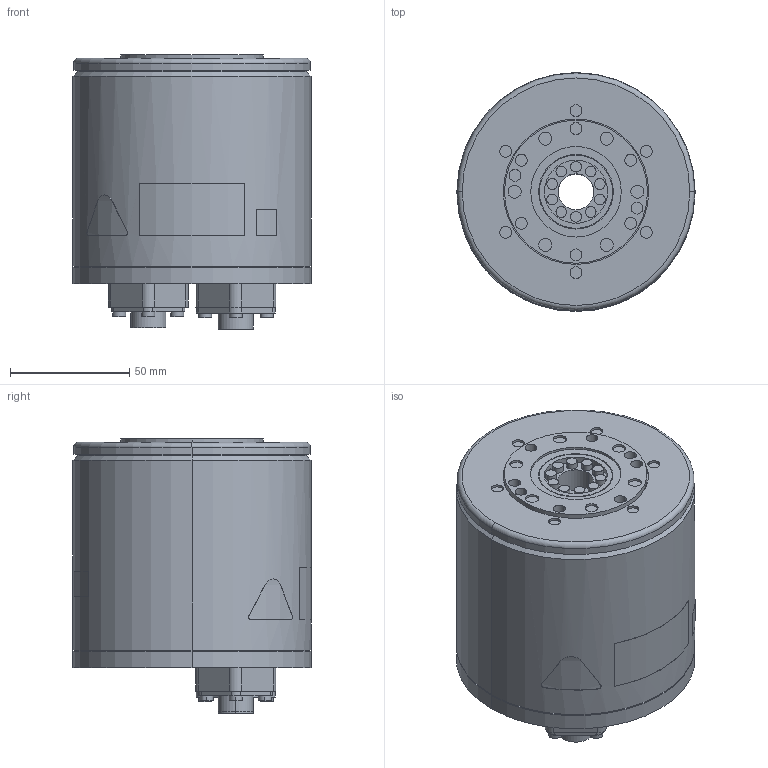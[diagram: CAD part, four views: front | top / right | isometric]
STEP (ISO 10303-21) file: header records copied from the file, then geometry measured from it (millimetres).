
FILE_DESCRIPTION (( 'STEP AP203' ), '1' );
FILE_NAME ('sgm7f_05a_a1_.STEP', '2016-08-04T02:52:54', ( '' ), ( '' ), 'SwSTEP 2.0', 'SolidWorks 2010', '' );
FILE_SCHEMA (( 'CONFIG_CONTROL_DESIGN' ));
Length unit declared in the file: millimetre
Products named in the file (1): sgm7f_05a_a1_
Bounding box: 100 x 100.2 x 115.1 mm (x, y, z)
Volume: 740417.6 mm3; surface area: 58069.6 mm2
Topology: 1 solids, 1 shells, 348 faces, 769 edges, 510 vertices
Faces by surface type: cylinder 191, plane 146, bspline 5, cone 4, torus 2
Entity records: 10058 total; most frequent: CARTESIAN_POINT 1885, DIRECTION 1847, ORIENTED_EDGE 1538, EDGE_CURVE 769, AXIS2_PLACEMENT_3D 750, VERTEX_POINT 510, EDGE_LOOP 437, CIRCLE 406
